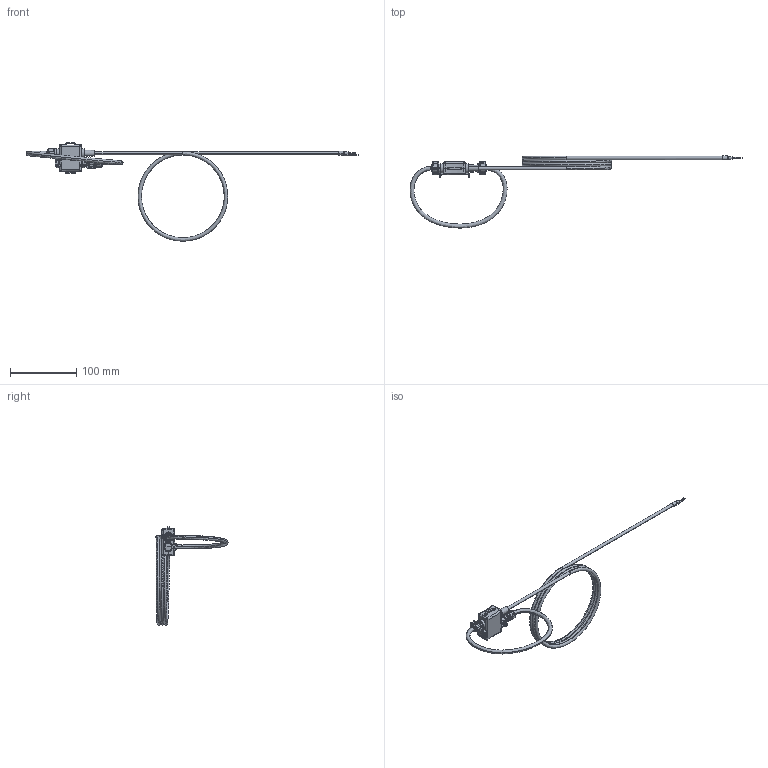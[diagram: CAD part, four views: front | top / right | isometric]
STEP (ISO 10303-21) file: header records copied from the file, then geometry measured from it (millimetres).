
FILE_DESCRIPTION(('Creo Elements/Direct Modeling STEP Export'),'2;1');
FILE_NAME('CAD CUSTOMER D70.stp','2020-05-29T17:31:00',(''),(''),'Creo Elements/Direct Modeling STEP processor for AP214 (Solid Model)','Creo Elements/Direct Modeling 20.1 10-Mar-2018 (C) Parametric Technology GmbH','');
FILE_SCHEMA(('AUTOMOTIVE_DESIGN { 1 0 10303 214 1 1 1 1 }'));
Products named in the file (2): BLACKBOX-ARH-B22-D70
Assembly tree (1 placements, depth 2):
  BLACKBOX-ARH-B22-D70
    BLACKBOX-ARH-B22-D70
Bounding box: 500.59 x 108.68 x 148.24 mm (x, y, z)
Volume: 69891.2 mm3; surface area: 47753.1 mm2
Topology: 1 solids, 10 shells, 1132 faces, 3050 edges, 1921 vertices
Faces by surface type: plane 473, cylinder 340, bspline 247, torus 30, cone 23, revolution 10, sphere 9
Entity records: 112345 total; most frequent: CARTESIAN_POINT 86906, ORIENTED_EDGE 6060, DIRECTION 3945, EDGE_CURVE 3030, VERTEX_POINT 1921, AXIS2_PLACEMENT_3D 1338, VECTOR 1259, LINE 1259
